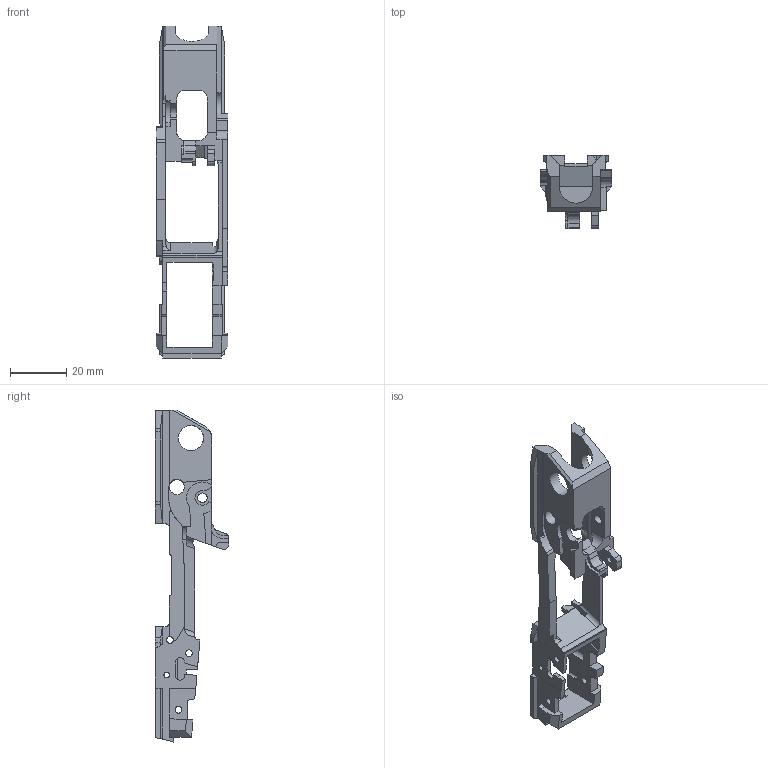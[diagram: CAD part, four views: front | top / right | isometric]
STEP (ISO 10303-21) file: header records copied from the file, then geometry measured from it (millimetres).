
FILE_DESCRIPTION(/* description */ (''),/* implementation_level */ '2;1');
FILE_NAME(/* name */ '/Users/tyler/Desktop/Ruger American Pistol FCG/Ruger American Chassis.step',/* time_stamp */ '2019-10-25T18:27:29-04:00',/* author */ (''),/* organization */ (''),/* preprocessor_version */ 'ST-DEVELOPER v18',/* originating_system */ 'Autodesk Translation Framework v8.6.0.1094',/* authorisation */ '');
FILE_SCHEMA (('AUTOMOTIVE_DESIGN { 1 0 10303 214 3 1 1 }'));
Length unit declared in the file: millimetre
Products named in the file (1): Ruger American Chassis
Bounding box: 25.5 x 26 x 118 mm (x, y, z)
Volume: 11642.6 mm3; surface area: 10716.9 mm2
Topology: 1 solids, 1 shells, 257 faces, 767 edges, 506 vertices
Faces by surface type: plane 171, cylinder 83, sphere 2, torus 1
Full cylindrical faces by diameter (mm): 2 x1, 2.4 x9, 2.65 x1, 3.2 x2, 3.4 x1, 5.3 x2, 8.95 x1
Entity records: 8860 total; most frequent: CARTESIAN_POINT 1708, ORIENTED_EDGE 1534, DIRECTION 1448, EDGE_CURVE 767, LINE 570, VECTOR 570, VERTEX_POINT 506, AXIS2_PLACEMENT_3D 439
